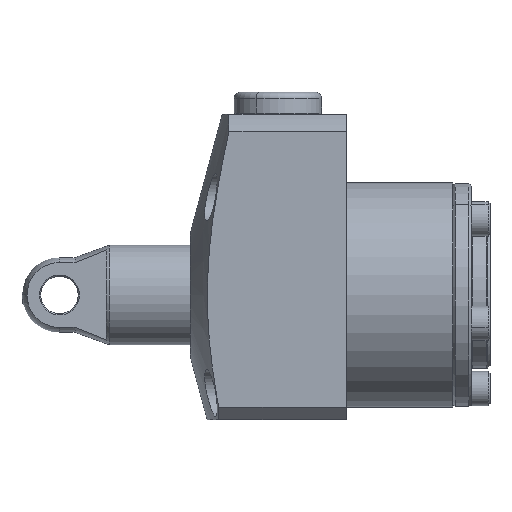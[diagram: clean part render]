
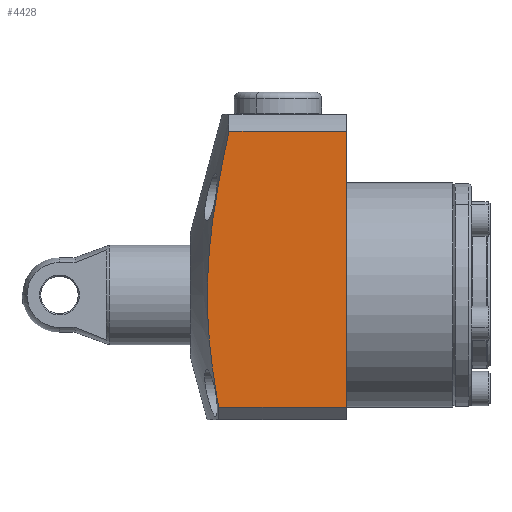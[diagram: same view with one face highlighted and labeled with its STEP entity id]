
A CAD part, left-side view. The second image highlights one B-rep face of the part: STEP entity #4428.
In plain terms, the highlighted planar face has unit normal (-1, 0, 0).
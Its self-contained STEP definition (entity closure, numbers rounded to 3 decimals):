
#60 = CARTESIAN_POINT ( 'NONE',  ( -20., 25., 29. ) ) ;
#68 = FACE_OUTER_BOUND ( 'NONE', #3242, .T. ) ;
#69 = PLANE ( 'NONE',  #4022 ) ;
#71 = DIRECTION ( 'NONE',  ( 1., 0., 0. ) ) ;
#72 = DIRECTION ( 'NONE',  ( 0., 0., -1. ) ) ;
#1526 = VERTEX_POINT ( 'NONE', #5300 ) ;
#1527 = VERTEX_POINT ( 'NONE', #5301 ) ;
#1528 = VERTEX_POINT ( 'NONE', #5302 ) ;
#1530 = VERTEX_POINT ( 'NONE', #5304 ) ;
#1752 = EDGE_CURVE ( 'NONE', #1526, #1528, #5346, .T. ) ;
#1753 = EDGE_CURVE ( 'NONE', #1530, #1528, #5354, .T. ) ;
#1754 = EDGE_CURVE ( 'NONE', #1530, #1527, #5363, .T. ) ;
#2051 = ORIENTED_EDGE ( 'NONE', *, *, #2329, .F. ) ;
#2052 = ORIENTED_EDGE ( 'NONE', *, *, #1752, .T. ) ;
#2053 = ORIENTED_EDGE ( 'NONE', *, *, #1753, .F. ) ;
#2054 = ORIENTED_EDGE ( 'NONE', *, *, #1754, .T. ) ;
#2329 = EDGE_CURVE ( 'NONE', #1526, #1527, #2365, .T. ) ;
#2365 = B_SPLINE_CURVE_WITH_KNOTS ( 'NONE', 3,
 ( #3458, #3457, #3462, #3463, #3464, #3465, #3466, #3467, #3468, #3469, #3470, #3471, #3472, #3473, #3474, #3475, #3476, #3477, #3478, #3479 ),
 .UNSPECIFIED., .F., .F.,
 ( 4, 2, 2, 2, 2, 2, 2, 2, 2, 4 ),
 ( 0.022, 0.028, 0.033, 0.039, 0.045, 0.05, 0.053, 0.056, 0.061, 0.067 ),
 .UNSPECIFIED. ) ;
#2982 = VECTOR ( 'NONE', #5365, 1000. ) ;
#2986 = VECTOR ( 'NONE', #5360, 1000. ) ;
#2988 = VECTOR ( 'NONE', #5362, 1000. ) ;
#3242 = EDGE_LOOP ( 'NONE', ( #2051, #2052, #2053, #2054 ) ) ;
#3457 = CARTESIAN_POINT ( 'NONE',  ( -20., 20.799, -16.163 ) ) ;
#3458 = CARTESIAN_POINT ( 'NONE',  ( -20., 20.47, -18. ) ) ;
#3462 = CARTESIAN_POINT ( 'NONE',  ( -20., 21.102, -14.319 ) ) ;
#3463 = CARTESIAN_POINT ( 'NONE',  ( -20., 21.625, -10.63 ) ) ;
#3464 = CARTESIAN_POINT ( 'NONE',  ( -20., 21.845, -8.784 ) ) ;
#3465 = CARTESIAN_POINT ( 'NONE',  ( -20., 22.169, -5.091 ) ) ;
#3466 = CARTESIAN_POINT ( 'NONE',  ( -20., 22.273, -3.242 ) ) ;
#3467 = CARTESIAN_POINT ( 'NONE',  ( -20., 22.342, 0.457 ) ) ;
#3468 = CARTESIAN_POINT ( 'NONE',  ( -20., 22.307, 2.309 ) ) ;
#3469 = CARTESIAN_POINT ( 'NONE',  ( -20., 22.105, 6.015 ) ) ;
#3470 = CARTESIAN_POINT ( 'NONE',  ( -20., 21.938, 7.87 ) ) ;
#3471 = CARTESIAN_POINT ( 'NONE',  ( -20., 21.612, 10.654 ) ) ;
#3472 = CARTESIAN_POINT ( 'NONE',  ( -20., 21.49, 11.582 ) ) ;
#3473 = CARTESIAN_POINT ( 'NONE',  ( -20., 21.228, 13.432 ) ) ;
#3474 = CARTESIAN_POINT ( 'NONE',  ( -20., 21.086, 14.354 ) ) ;
#3475 = CARTESIAN_POINT ( 'NONE',  ( -20., 20.637, 17.116 ) ) ;
#3476 = CARTESIAN_POINT ( 'NONE',  ( -20., 20.305, 18.949 ) ) ;
#3477 = CARTESIAN_POINT ( 'NONE',  ( -20., 19.599, 22.605 ) ) ;
#3478 = CARTESIAN_POINT ( 'NONE',  ( -20., 19.225, 24.429 ) ) ;
#3479 = CARTESIAN_POINT ( 'NONE',  ( -20., 18.837, 26.249 ) ) ;
#4022 = AXIS2_PLACEMENT_3D ( 'NONE', #60, #71, #72 ) ;
#4428 = ADVANCED_FACE ( 'NONE', ( #68 ), #69, .F. ) ;
#5300 = CARTESIAN_POINT ( 'NONE',  ( -20., 20.47, -18. ) ) ;
#5301 = CARTESIAN_POINT ( 'NONE',  ( -20., 18.837, 26.249 ) ) ;
#5302 = CARTESIAN_POINT ( 'NONE',  ( -20., 0., -18. ) ) ;
#5304 = CARTESIAN_POINT ( 'NONE',  ( -20., 0., 26.249 ) ) ;
#5346 = LINE ( 'NONE', #5359, #2986 ) ;
#5354 = LINE ( 'NONE', #5361, #2988 ) ;
#5359 = CARTESIAN_POINT ( 'NONE',  ( -20., 25., -18. ) ) ;
#5360 = DIRECTION ( 'NONE',  ( 0., -1., 0. ) ) ;
#5361 = CARTESIAN_POINT ( 'NONE',  ( -20., 0., -20. ) ) ;
#5362 = DIRECTION ( 'NONE',  ( 0., 0., -1. ) ) ;
#5363 = LINE ( 'NONE', #5364, #2982 ) ;
#5364 = CARTESIAN_POINT ( 'NONE',  ( -20., 0., 26.249 ) ) ;
#5365 = DIRECTION ( 'NONE',  ( 0., 1., 0. ) ) ;
